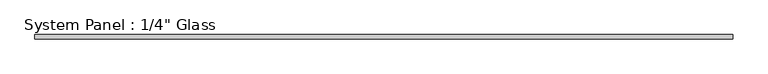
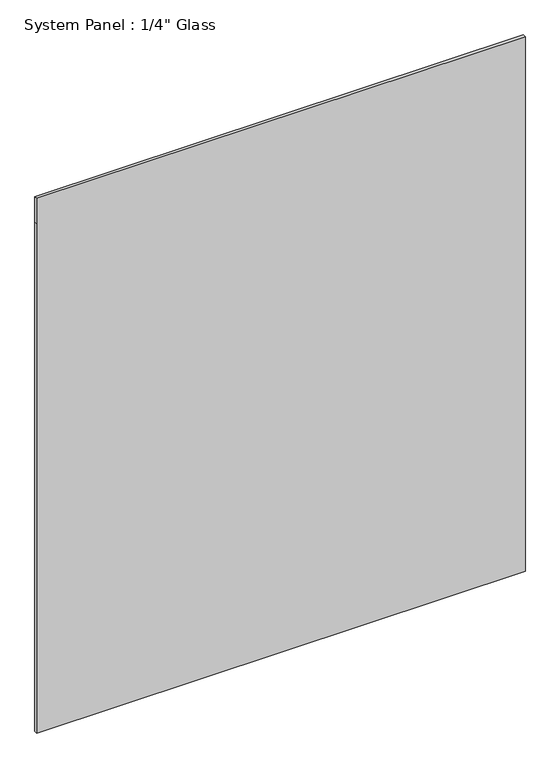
"""IFC4 building model written with IfcOpenShell, lengths in millimetres: plate geometry."""

from ifc_helpers import new_model, si_unit, frame, origin, place, context, project, spatial, polyline, outline, extrude, source, transform, mapped, element, save


def plate_cb1350e7(model_context):
    return source(origin(), model_context, "Body", "SweptSolid", [
        extrude(outline(polyline([(0.0, -537.5400656), (0.0, 537.5400656), (1184.275, 537.5400656), (1242.5844027, 537.5400656), (1242.5844027, -537.5400656), (1184.275, -537.5400656), (0.0, -537.5400656)])), frame((0.0, -3.175, 0.0), z_axis=(0.0, 1.0, 0.0), x_axis=(0.0, 0.0, 1.0)), (0.0, 0.0, 1.0), 6.35),
    ])


if __name__ == "__main__":
    model = new_model("IFC4")
    model_context = context("Model", 3, world=origin())
    ifc_project = project(units=[si_unit("LENGTHUNIT", "METRE", prefix="MILLI")], contexts=[model_context])
    site = spatial("IfcSite", under=ifc_project)
    building = spatial("IfcBuilding", under=site)
    placement = place(None, origin())
    plate_shape = plate_cb1350e7(model_context)
    element("IfcPlate", 1, ObjectType="System Panel : 1/4\" Glass", at=placement, inside=building, context=model_context, shape_type="MappedRepresentation", body=[
        mapped(plate_shape, transform((0.0, 0.0, 0.0), x_axis=(1.0, 0.0, 0.0), y_axis=(0.0, 1.0, 0.0), z_axis=(0.0, 0.0, 1.0))),
    ])
    save(model, "model.ifc")
